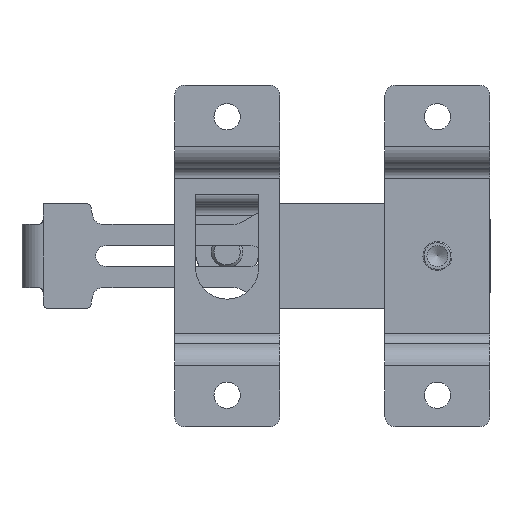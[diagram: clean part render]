
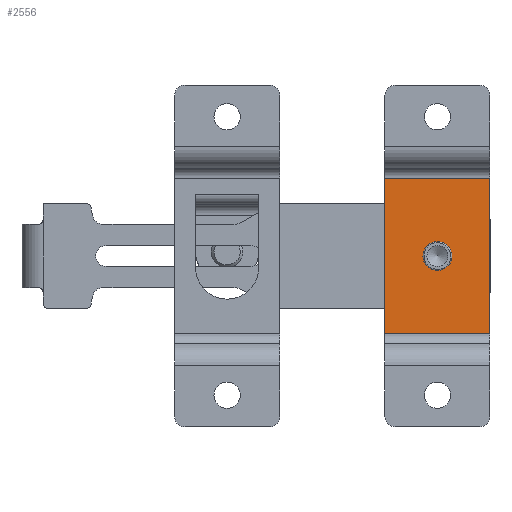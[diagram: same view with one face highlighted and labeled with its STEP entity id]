
A CAD part, front view. The second image highlights one B-rep face of the part: STEP entity #2556.
In plain terms, the highlighted planar face has unit normal (0, -1, 0).
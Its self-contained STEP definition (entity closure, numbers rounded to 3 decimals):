
#68=FACE_BOUND('',#411,.T.);
#121=PLANE('',#2755);
#235=FACE_OUTER_BOUND('',#410,.T.);
#410=EDGE_LOOP('',(#1878,#1879,#1880,#1881));
#411=EDGE_LOOP('',(#1882));
#614=LINE('',#3953,#844);
#623=LINE('',#3975,#853);
#625=LINE('',#3981,#855);
#629=LINE('',#3994,#859);
#844=VECTOR('',#3116,20.);
#853=VECTOR('',#3141,29.584);
#855=VECTOR('',#3149,20.);
#859=VECTOR('',#3165,29.584);
#1052=CIRCLE('',#2724,2.5);
#1192=VERTEX_POINT('',#3917);
#1201=VERTEX_POINT('',#3950);
#1202=VERTEX_POINT('',#3952);
#1207=VERTEX_POINT('',#3974);
#1208=VERTEX_POINT('',#3980);
#1423=EDGE_CURVE('',#1192,#1192,#1052,.T.);
#1441=EDGE_CURVE('',#1201,#1202,#614,.T.);
#1452=EDGE_CURVE('',#1207,#1202,#623,.T.);
#1455=EDGE_CURVE('',#1208,#1207,#625,.T.);
#1462=EDGE_CURVE('',#1208,#1201,#629,.T.);
#1878=ORIENTED_EDGE('',*,*,#1441,.F.);
#1879=ORIENTED_EDGE('',*,*,#1462,.F.);
#1880=ORIENTED_EDGE('',*,*,#1455,.T.);
#1881=ORIENTED_EDGE('',*,*,#1452,.T.);
#1882=ORIENTED_EDGE('',*,*,#1423,.T.);
#2556=ADVANCED_FACE('',(#235,#68),#121,.F.);
#2724=AXIS2_PLACEMENT_3D('',#3918,#3078,#3079);
#2755=AXIS2_PLACEMENT_3D('',#4003,#3172,#3173);
#3078=DIRECTION('center_axis',(0.,1.,0.));
#3079=DIRECTION('ref_axis',(-1.,0.,0.));
#3116=DIRECTION('',(-1.,0.,0.));
#3141=DIRECTION('',(0.,0.,-1.));
#3149=DIRECTION('',(-1.,0.,0.));
#3165=DIRECTION('',(0.,0.,-1.));
#3172=DIRECTION('center_axis',(0.,1.,0.));
#3173=DIRECTION('ref_axis',(0.,0.,1.));
#3917=CARTESIAN_POINT('',(7.5,3.,-32.5));
#3918=CARTESIAN_POINT('Origin',(10.,3.,-32.5));
#3950=CARTESIAN_POINT('',(20.,3.,-47.292));
#3952=CARTESIAN_POINT('',(0.,3.,-47.292));
#3953=CARTESIAN_POINT('',(10.,3.,-47.292));
#3974=CARTESIAN_POINT('',(0.,3.,-17.708));
#3975=CARTESIAN_POINT('',(0.,3.,2.117));
#3980=CARTESIAN_POINT('',(20.,3.,-17.708));
#3981=CARTESIAN_POINT('',(10.,3.,-17.708));
#3994=CARTESIAN_POINT('',(20.,3.,2.117));
#4003=CARTESIAN_POINT('Origin',(10.,3.,-32.5));
